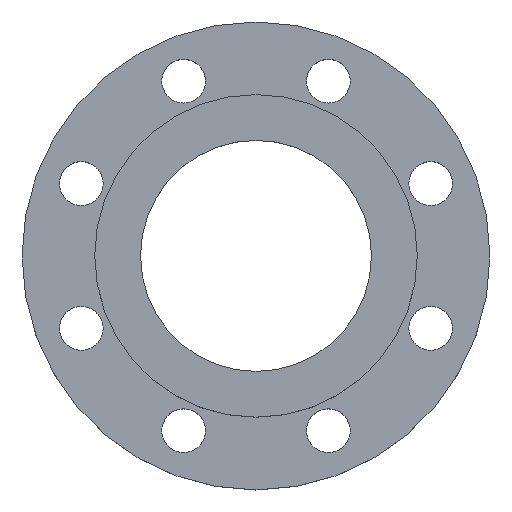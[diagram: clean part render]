
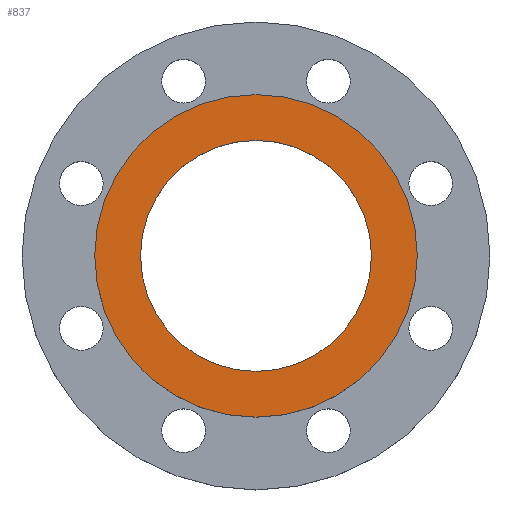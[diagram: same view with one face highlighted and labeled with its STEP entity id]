
A CAD part, top view. The second image highlights one B-rep face of the part: STEP entity #837.
In plain terms, the highlighted planar face has unit normal (0, 0, 1).
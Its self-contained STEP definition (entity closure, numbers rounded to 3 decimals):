
#84 = CIRCLE ( 'NONE', #99, 81. ) ;
#99 = AXIS2_PLACEMENT_3D ( 'NONE', #142, #141, #140 ) ;
#140 = DIRECTION ( 'NONE',  ( -1., 0., 0. ) ) ;
#141 = DIRECTION ( 'NONE',  ( 0., 0., -1. ) ) ;
#142 = CARTESIAN_POINT ( 'NONE',  ( 0., 0., 20. ) ) ;
#169 = EDGE_CURVE ( 'NONE', #794, #872, #427, .T. ) ;
#228 = DIRECTION ( 'NONE',  ( -1., 0., 0. ) ) ;
#229 = DIRECTION ( 'NONE',  ( 0., 0., -1. ) ) ;
#230 = CARTESIAN_POINT ( 'NONE',  ( 0., 0., 20. ) ) ;
#235 = CARTESIAN_POINT ( 'NONE',  ( 58., 0., 20. ) ) ;
#257 = EDGE_CURVE ( 'NONE', #813, #1033, #287, .T. ) ;
#287 = CIRCLE ( 'NONE', #379, 81. ) ;
#379 = AXIS2_PLACEMENT_3D ( 'NONE', #593, #594, #595 ) ;
#380 = FACE_OUTER_BOUND ( 'NONE', #994, .T. ) ;
#392 = ORIENTED_EDGE ( 'NONE', *, *, #257, .F. ) ;
#393 = AXIS2_PLACEMENT_3D ( 'NONE', #235, #591, #779 ) ;
#394 = ORIENTED_EDGE ( 'NONE', *, *, #626, .F. ) ;
#397 = ORIENTED_EDGE ( 'NONE', *, *, #169, .T. ) ;
#400 = ORIENTED_EDGE ( 'NONE', *, *, #514, .T. ) ;
#427 = CIRCLE ( 'NONE', #575, 58. ) ;
#514 = EDGE_CURVE ( 'NONE', #872, #794, #639, .T. ) ;
#562 = CARTESIAN_POINT ( 'NONE',  ( 0., 0., 20. ) ) ;
#564 = DIRECTION ( 'NONE',  ( 0., 0., -1. ) ) ;
#566 = DIRECTION ( 'NONE',  ( -1., 0., 0. ) ) ;
#575 = AXIS2_PLACEMENT_3D ( 'NONE', #562, #564, #566 ) ;
#591 = DIRECTION ( 'NONE',  ( 0., 0., -1. ) ) ;
#593 = CARTESIAN_POINT ( 'NONE',  ( 0., 0., 20. ) ) ;
#594 = DIRECTION ( 'NONE',  ( 0., 0., -1. ) ) ;
#595 = DIRECTION ( 'NONE',  ( -1., 0., 0. ) ) ;
#619 = AXIS2_PLACEMENT_3D ( 'NONE', #230, #229, #228 ) ;
#626 = EDGE_CURVE ( 'NONE', #1033, #813, #84, .T. ) ;
#639 = CIRCLE ( 'NONE', #619, 58. ) ;
#646 = CARTESIAN_POINT ( 'NONE',  ( -81., 0., 20. ) ) ;
#649 = FACE_BOUND ( 'NONE', #1019, .T. ) ;
#653 = CARTESIAN_POINT ( 'NONE',  ( 58., 0., 20. ) ) ;
#695 = CARTESIAN_POINT ( 'NONE',  ( -58., 0., 20. ) ) ;
#779 = DIRECTION ( 'NONE',  ( -1., 0., 0. ) ) ;
#794 = VERTEX_POINT ( 'NONE', #695 ) ;
#801 = PLANE ( 'NONE',  #393 ) ;
#813 = VERTEX_POINT ( 'NONE', #646 ) ;
#818 = CARTESIAN_POINT ( 'NONE',  ( 81., 0., 20. ) ) ;
#837 = ADVANCED_FACE ( 'NONE', ( #380, #649 ), #801, .F. ) ;
#872 = VERTEX_POINT ( 'NONE', #653 ) ;
#994 = EDGE_LOOP ( 'NONE', ( #392, #394 ) ) ;
#1019 = EDGE_LOOP ( 'NONE', ( #397, #400 ) ) ;
#1033 = VERTEX_POINT ( 'NONE', #818 ) ;
